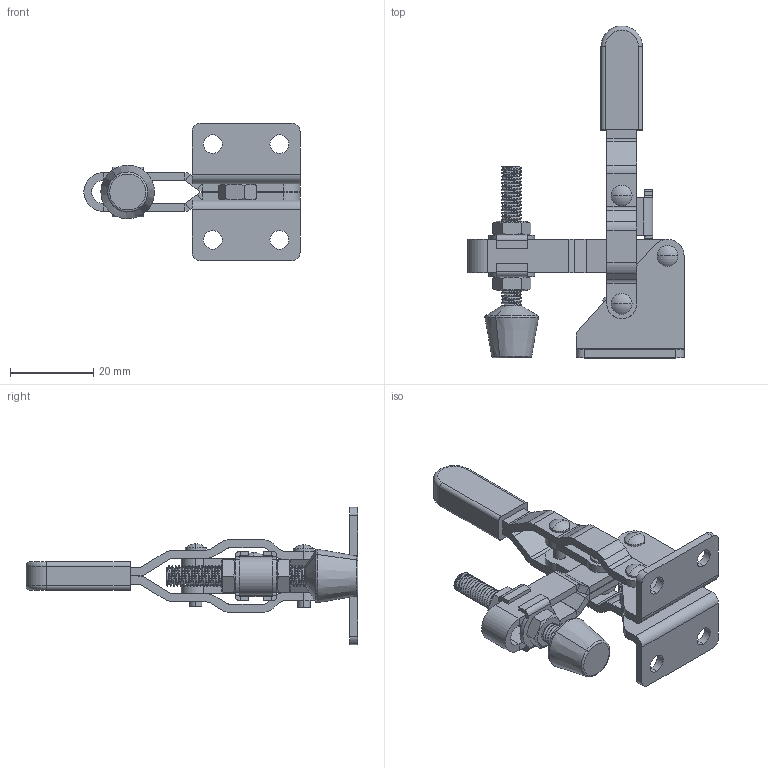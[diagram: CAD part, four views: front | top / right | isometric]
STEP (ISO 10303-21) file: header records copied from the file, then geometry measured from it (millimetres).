
FILE_DESCRIPTION (( 'STEP AP203' ), '1' );
FILE_NAME ('SK3-021H-3.STEP', '2018-11-01T08:24:53', ( 'admin' ), ( 'Microsoft' ), 'SwSTEP 2.0', 'SolidWorks 2015', '' );
FILE_SCHEMA (( 'CONFIG_CONTROL_DESIGN' ));
Length unit declared in the file: millimetre
Products named in the file (14): SK3-021H-3 蹟翐; SK3-021H-3 蜇璃4; SK3-021H-3 菁釱酘; M5 L4 蹟譫; SK3-021H-3 菁釱衵; M5 L3.3 蹟譫; SK3-021H-3 蜇璃1; SK3-021H-3 种隊L9; SK3-021H-3 蜇璃2; SK3-021H-3 种隊L13.5; SK3-021H-3 蜇璃3衵; SK3-021H-3; SK3-021H-3 蜇璃3酘; SK3-021H-3 砎蝶參忒
Assembly tree (17 placements, depth 2):
  SK3-021H-3
    SK3-021H-3 菁釱酘
    SK3-021H-3 菁釱衵
    SK3-021H-3 蜇璃1
    SK3-021H-3 蜇璃2  x2
    SK3-021H-3 蜇璃3衵
    SK3-021H-3 蜇璃3酘
    SK3-021H-3 砎蝶參忒
    SK3-021H-3 蹟翐
    SK3-021H-3 蜇璃4
    M5 L4 蹟譫
    M5 L3.3 蹟譫  x2
    SK3-021H-3 种隊L9  x2
    SK3-021H-3 种隊L13.5  x2
Bounding box: 52 x 79.8 x 33 mm (x, y, z)
Volume: 10948.3 mm3; surface area: 14294.3 mm2
Topology: 17 solids, 17 shells, 492 faces, 1224 edges, 775 vertices
Faces by surface type: cylinder 255, plane 204, cone 16, sphere 8, torus 6, bspline 3
Entity records: 20681 total; most frequent: CARTESIAN_POINT 8987, ORIENTED_EDGE 2174, DIRECTION 2088, EDGE_CURVE 1087, AXIS2_PLACEMENT_3D 768, VERTEX_POINT 690, LINE 552, VECTOR 552
